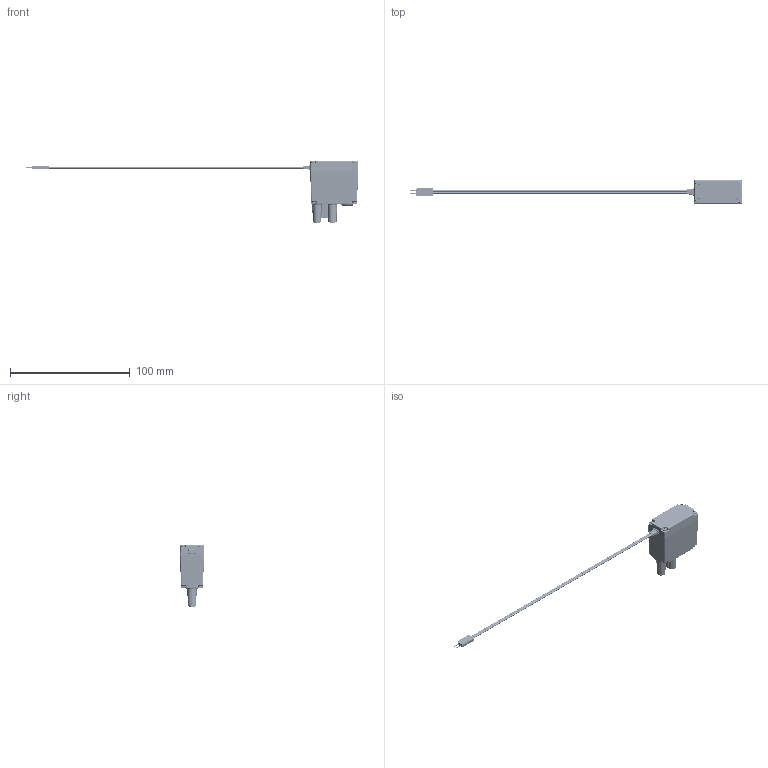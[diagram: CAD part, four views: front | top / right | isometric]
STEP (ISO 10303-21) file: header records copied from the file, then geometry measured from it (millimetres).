
FILE_DESCRIPTION (( 'STEP AP203' ), '1' );
FILE_NAME ('276-2181 Rev1.STEP', '2010-06-25T18:17:47', ( 'IFI' ), ( 'IFI' ), 'SwSTEP 2.0', 'SolidWorks 2009', '' );
FILE_SCHEMA (( 'CONFIG_CONTROL_DESIGN' ));
Products named in the file (19): 276-2181-006 Rev1; 276-2181-007 Rev1; 276-2181-012 Rev1; 276-2177-018 Rev1; 276-2177-017 Rev1; 276-2181-001 Rev1; 276-2181 Rev1; 276-2181-002 Rev1; 276-2181-003 Rev1; 276-2181-004 Rev1; 276-2181-005 Rev1; 276-2181-008 Rev1_276-2181-008g; 276-2181-009 Rev1; 276-2181-010 Rev1; 276-2181-011 Rev1; 276-2177-019 Rev1; QFK-N30QAV-16068; SPPM206-0150BO; SPPM143-0030BO
Assembly tree (30 placements, depth 2):
  276-2181 Rev1
    SPPM206-0150BO  x8
    276-2181-003 Rev1
    276-2177-019 Rev1  x2
    276-2181-011 Rev1  x2
    276-2177-017 Rev1
    QFK-N30QAV-16068
    SPPM143-0030BO  x2
    276-2181-010 Rev1  x2
    276-2181-001 Rev1
    276-2181-006 Rev1  x2
    276-2181-007 Rev1
    276-2177-018 Rev1
    276-2181-002 Rev1
    276-2181-009 Rev1
    276-2181-004 Rev1
    276-2181-005 Rev1
    276-2181-008 Rev1_276-2181-008g
    276-2181-012 Rev1
Bounding box: 277.81 x 20 x 51.8 mm (x, y, z)
Volume: 17897.8 mm3; surface area: 28071.1 mm2
Topology: 32 solids, 32 shells, 2965 faces, 9725 edges, 6880 vertices
Faces by surface type: cylinder 1567, plane 723, bspline 517, torus 100, sphere 30, cone 28
Entity records: 273920 total; most frequent: CARTESIAN_POINT 232882, ORIENTED_EDGE 8802, DIRECTION 7140, EDGE_CURVE 4401, VERTEX_POINT 2918, AXIS2_PLACEMENT_3D 2603, VECTOR 1934, LINE 1934
